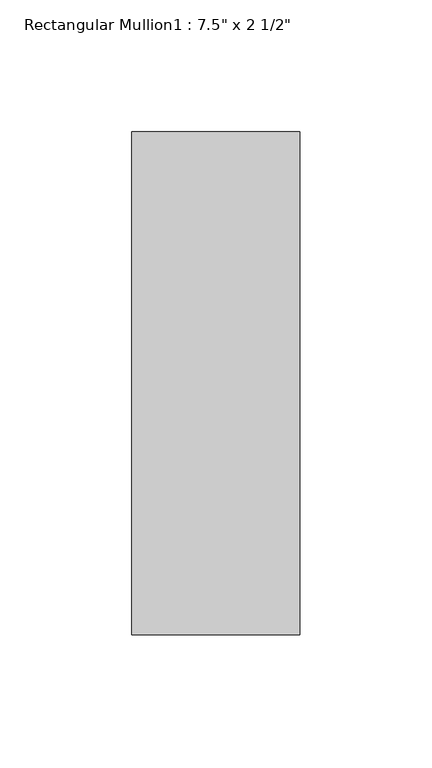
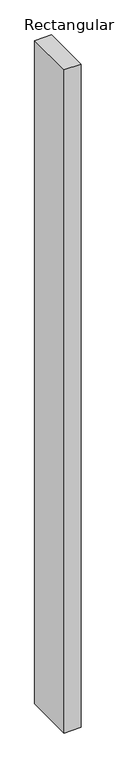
"""IFC4 building model written with IfcOpenShell, lengths in millimetres: member geometry."""

from ifc_helpers import new_model, si_unit, frame, origin, place, context, project, spatial, polyline, outline, extrude, source, transform, mapped, element, save


def member_8a11893e(model_context):
    return source(origin(), model_context, "Body", "SweptSolid", [
        extrude(outline(polyline([(31.75, 165.1), (31.75, -25.4), (-31.75, -25.4), (-31.75, 165.1), (31.75, 165.1)])), frame((0.0, 0.0, -2616.2), z_axis=(0.0, 0.0, 1.0), x_axis=(1.0, 0.0, 0.0)), (0.0, 0.0, 1.0), 2616.2),
    ])


if __name__ == "__main__":
    model = new_model("IFC4")
    model_context = context("Model", 3, world=origin())
    ifc_project = project(units=[si_unit("LENGTHUNIT", "METRE", prefix="MILLI")], contexts=[model_context])
    site = spatial("IfcSite", under=ifc_project)
    building = spatial("IfcBuilding", under=site)
    placement = place(None, origin())
    member_shape = member_8a11893e(model_context)
    element("IfcMember", 1, ObjectType="Rectangular Mullion1 : 7.5\" x 2 1/2\"", at=placement, inside=building, context=model_context, shape_type="MappedRepresentation", body=[
        mapped(member_shape, transform((0.0, 0.0, 0.0), x_axis=(1.0, 0.0, 0.0), y_axis=(0.0, 1.0, 0.0), z_axis=(0.0, 0.0, 1.0))),
    ])
    save(model, "model.ifc")
